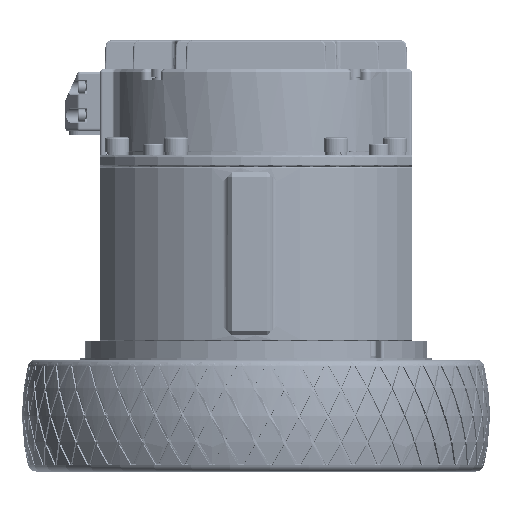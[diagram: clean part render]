
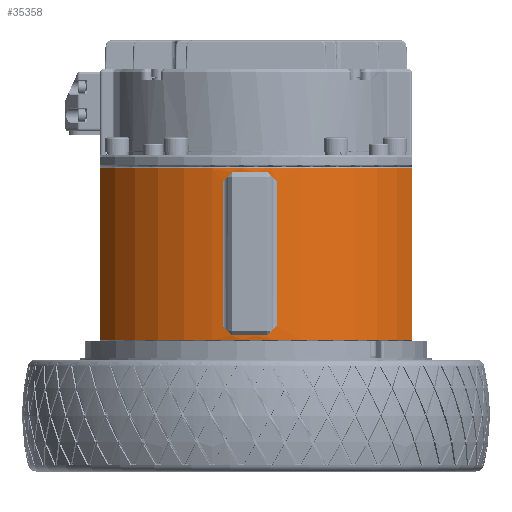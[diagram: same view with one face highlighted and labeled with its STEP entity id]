
A CAD part, left-side view. The second image highlights one B-rep face of the part: STEP entity #35358.
In plain terms, the highlighted cylindrical face has radius 61 mm (diameter 122 mm), a partial arc.
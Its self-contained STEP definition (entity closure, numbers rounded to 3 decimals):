
#661 = VERTEX_POINT ( 'NONE', #97570 ) ;
#1352 = DIRECTION ( 'NONE',  ( 0., 0., 1. ) ) ;
#2329 = CARTESIAN_POINT ( 'NONE',  ( 0., 0., -146.697 ) ) ;
#3193 = LINE ( 'NONE', #183142, #177117 ) ;
#8589 = EDGE_CURVE ( 'NONE', #101421, #129819, #17062, .T. ) ;
#11638 =( BOUNDED_CURVE ( )  B_SPLINE_CURVE ( 3, ( #84684, #162507, #41893, #13699 ),
 .UNSPECIFIED., .F., .T. ) 
 B_SPLINE_CURVE_WITH_KNOTS ( ( 4, 4 ),
 ( 1.451, 1.505 ),
 .UNSPECIFIED. ) 
 CURVE ( )  GEOMETRIC_REPRESENTATION_ITEM ( )  RATIONAL_B_SPLINE_CURVE ( ( 1., 1., 1., 1. ) ) 
 REPRESENTATION_ITEM ( '' )  );
#13699 = CARTESIAN_POINT ( 'NONE',  ( -60.869, -4., -145.197 ) ) ;
#14079 = CARTESIAN_POINT ( 'NONE',  ( -60.084, 10.584, -89.781 ) ) ;
#17062 = LINE ( 'NONE', #77312, #146217 ) ;
#17197 = CARTESIAN_POINT ( 'NONE',  ( -60.696, -6.177, -89.875 ) ) ;
#18137 = ORIENTED_EDGE ( 'NONE', *, *, #132550, .T. ) ;
#20663 = CARTESIAN_POINT ( 'NONE',  ( -26.382, 55., -86.197 ) ) ;
#20941 = ORIENTED_EDGE ( 'NONE', *, *, #128713, .T. ) ;
#21414 = LINE ( 'NONE', #164738, #102593 ) ;
#24119 = CARTESIAN_POINT ( 'NONE',  ( -59.883, 11.619, -90.816 ) ) ;
#24121 =( BOUNDED_CURVE ( )  B_SPLINE_CURVE ( 3, ( #45404, #177780, #17197, #60955 ),
 .UNSPECIFIED., .F., .F. ) 
 B_SPLINE_CURVE_WITH_KNOTS ( ( 4, 4 ),
 ( 1.636, 1.69 ),
 .UNSPECIFIED. ) 
 CURVE ( )  GEOMETRIC_REPRESENTATION_ITEM ( )  RATIONAL_B_SPLINE_CURVE ( ( 1., 1., 1., 1. ) ) 
 REPRESENTATION_ITEM ( '' )  );
#24153 = AXIS2_PLACEMENT_3D ( 'NONE', #57893, #69603, #146485 ) ;
#24742 = CIRCLE ( 'NONE', #121076, 61. ) ;
#26912 = CARTESIAN_POINT ( 'NONE',  ( -60.566, -7.262, -90.959 ) ) ;
#27687 = CARTESIAN_POINT ( 'NONE',  ( -60.258, 9.544, -88.741 ) ) ;
#28872 = EDGE_LOOP ( 'NONE', ( #93689, #183773, #59309, #18137, #102043, #92927, #20941, #66211 ) ) ;
#35358 = ADVANCED_FACE ( 'NONE', ( #156492, #97080 ), #65072, .T. ) ;
#35540 = EDGE_CURVE ( 'NONE', #155682, #60007, #99635, .T. ) ;
#41893 = CARTESIAN_POINT ( 'NONE',  ( -60.797, -5.09, -144.108 ) ) ;
#42042 = CARTESIAN_POINT ( 'NONE',  ( -60.566, -7.262, -147.197 ) ) ;
#43046 = CARTESIAN_POINT ( 'NONE',  ( -60.405, 8.5, -87.697 ) ) ;
#44199 = CARTESIAN_POINT ( 'NONE',  ( -59.883, 11.619, -90.816 ) ) ;
#44463 = EDGE_LOOP ( 'NONE', ( #170736, #48288, #65554, #181579 ) ) ;
#45404 = CARTESIAN_POINT ( 'NONE',  ( -60.869, -4., -87.697 ) ) ;
#46658 = CARTESIAN_POINT ( 'NONE',  ( -26.382, -55., -146.697 ) ) ;
#46993 = DIRECTION ( 'NONE',  ( 0., 0., 1. ) ) ;
#48288 = ORIENTED_EDGE ( 'NONE', *, *, #93535, .T. ) ;
#50032 = DIRECTION ( 'NONE',  ( 0., 0., 1. ) ) ;
#56007 = CARTESIAN_POINT ( 'NONE',  ( -60.405, 8.5, -145.197 ) ) ;
#57347 = VERTEX_POINT ( 'NONE', #127419 ) ;
#57893 = CARTESIAN_POINT ( 'NONE',  ( 0., 0., -86.197 ) ) ;
#59309 = ORIENTED_EDGE ( 'NONE', *, *, #97983, .T. ) ;
#59901 =( BOUNDED_CURVE ( )  B_SPLINE_CURVE ( 3, ( #44199, #14079, #27687, #115207 ),
 .UNSPECIFIED., .F., .T. ) 
 B_SPLINE_CURVE_WITH_KNOTS ( ( 4, 4 ),
 ( 4.521, 4.573 ),
 .UNSPECIFIED. ) 
 CURVE ( )  GEOMETRIC_REPRESENTATION_ITEM ( )  RATIONAL_B_SPLINE_CURVE ( ( 1., 1., 1., 1. ) ) 
 REPRESENTATION_ITEM ( '' )  );
#60007 = VERTEX_POINT ( 'NONE', #81236 ) ;
#60955 = CARTESIAN_POINT ( 'NONE',  ( -60.566, -7.262, -90.959 ) ) ;
#63314 = VERTEX_POINT ( 'NONE', #170262 ) ;
#65072 = CYLINDRICAL_SURFACE ( 'NONE', #100445, 61. ) ;
#65554 = ORIENTED_EDGE ( 'NONE', *, *, #8589, .F. ) ;
#66211 = ORIENTED_EDGE ( 'NONE', *, *, #125169, .F. ) ;
#69603 = DIRECTION ( 'NONE',  ( 0., 0., -1. ) ) ;
#76585 = CARTESIAN_POINT ( 'NONE',  ( 0., 0., -145.197 ) ) ;
#77312 = CARTESIAN_POINT ( 'NONE',  ( -26.382, 55., -156.697 ) ) ;
#77561 = DIRECTION ( 'NONE',  ( -1., 0., 0. ) ) ;
#81236 = CARTESIAN_POINT ( 'NONE',  ( -59.883, 11.619, -142.078 ) ) ;
#84684 = CARTESIAN_POINT ( 'NONE',  ( -60.566, -7.262, -141.935 ) ) ;
#86317 = CARTESIAN_POINT ( 'NONE',  ( -59.883, 11.619, -142.078 ) ) ;
#86764 = DIRECTION ( 'NONE',  ( 0., 0., -1. ) ) ;
#92927 = ORIENTED_EDGE ( 'NONE', *, *, #175924, .T. ) ;
#93535 = EDGE_CURVE ( 'NONE', #57347, #129819, #107995, .T. ) ;
#93689 = ORIENTED_EDGE ( 'NONE', *, *, #35540, .T. ) ;
#94115 = AXIS2_PLACEMENT_3D ( 'NONE', #113851, #50032, #99281 ) ;
#97080 = FACE_BOUND ( 'NONE', #28872, .T. ) ;
#97570 = CARTESIAN_POINT ( 'NONE',  ( -60.869, -4., -145.197 ) ) ;
#97983 = EDGE_CURVE ( 'NONE', #183145, #131493, #59901, .T. ) ;
#99281 = DIRECTION ( 'NONE',  ( -1., 0., 0. ) ) ;
#99635 =( BOUNDED_CURVE ( )  B_SPLINE_CURVE ( 3, ( #157435, #100896, #143814, #86317 ),
 .UNSPECIFIED., .F., .F. ) 
 B_SPLINE_CURVE_WITH_KNOTS ( ( 4, 4 ),
 ( 4.852, 4.904 ),
 .UNSPECIFIED. ) 
 CURVE ( )  GEOMETRIC_REPRESENTATION_ITEM ( )  RATIONAL_B_SPLINE_CURVE ( ( 1., 1., 1., 1. ) ) 
 REPRESENTATION_ITEM ( '' )  );
#100330 = CIRCLE ( 'NONE', #94115, 61. ) ;
#100334 = VERTEX_POINT ( 'NONE', #185851 ) ;
#100445 = AXIS2_PLACEMENT_3D ( 'NONE', #169181, #122445, #108815 ) ;
#100896 = CARTESIAN_POINT ( 'NONE',  ( -60.258, 9.544, -144.153 ) ) ;
#101421 = VERTEX_POINT ( 'NONE', #166496 ) ;
#102043 = ORIENTED_EDGE ( 'NONE', *, *, #187519, .T. ) ;
#102593 = VECTOR ( 'NONE', #46993, 1000. ) ;
#107995 = CIRCLE ( 'NONE', #24153, 61. ) ;
#108815 = DIRECTION ( 'NONE',  ( 1., 0., 0. ) ) ;
#113851 = CARTESIAN_POINT ( 'NONE',  ( 0., 0., -87.697 ) ) ;
#115207 = CARTESIAN_POINT ( 'NONE',  ( -60.405, 8.5, -87.697 ) ) ;
#121076 = AXIS2_PLACEMENT_3D ( 'NONE', #76585, #168079, #77561 ) ;
#122445 = DIRECTION ( 'NONE',  ( 0., 0., 1. ) ) ;
#123146 = CIRCLE ( 'NONE', #138757, 61. ) ;
#125169 = EDGE_CURVE ( 'NONE', #155682, #661, #24742, .T. ) ;
#125767 = EDGE_CURVE ( 'NONE', #177488, #57347, #21414, .T. ) ;
#127419 = CARTESIAN_POINT ( 'NONE',  ( -26.382, -55., -86.197 ) ) ;
#128713 = EDGE_CURVE ( 'NONE', #63314, #661, #11638, .T. ) ;
#129819 = VERTEX_POINT ( 'NONE', #20663 ) ;
#131493 = VERTEX_POINT ( 'NONE', #43046 ) ;
#131503 = LINE ( 'NONE', #42042, #160796 ) ;
#132550 = EDGE_CURVE ( 'NONE', #131493, #100334, #100330, .T. ) ;
#138757 = AXIS2_PLACEMENT_3D ( 'NONE', #2329, #1352, #166702 ) ;
#139318 = DIRECTION ( 'NONE',  ( 0., 0., 1. ) ) ;
#139576 = DIRECTION ( 'NONE',  ( 0., 0., 1. ) ) ;
#143814 = CARTESIAN_POINT ( 'NONE',  ( -60.084, 10.584, -143.113 ) ) ;
#144615 = EDGE_CURVE ( 'NONE', #60007, #183145, #3193, .T. ) ;
#146217 = VECTOR ( 'NONE', #139576, 1000. ) ;
#146485 = DIRECTION ( 'NONE',  ( -1., 0., 0. ) ) ;
#153342 = VERTEX_POINT ( 'NONE', #26912 ) ;
#155682 = VERTEX_POINT ( 'NONE', #56007 ) ;
#156492 = FACE_OUTER_BOUND ( 'NONE', #44463, .T. ) ;
#157435 = CARTESIAN_POINT ( 'NONE',  ( -60.405, 8.5, -145.197 ) ) ;
#160134 = EDGE_CURVE ( 'NONE', #101421, #177488, #123146, .T. ) ;
#160796 = VECTOR ( 'NONE', #86764, 1000. ) ;
#162507 = CARTESIAN_POINT ( 'NONE',  ( -60.696, -6.177, -143.02 ) ) ;
#164738 = CARTESIAN_POINT ( 'NONE',  ( -26.382, -55., -156.697 ) ) ;
#166496 = CARTESIAN_POINT ( 'NONE',  ( -26.382, 55., -146.697 ) ) ;
#166702 = DIRECTION ( 'NONE',  ( -1., 0., 0. ) ) ;
#168079 = DIRECTION ( 'NONE',  ( 0., 0., 1. ) ) ;
#169181 = CARTESIAN_POINT ( 'NONE',  ( 0., 0., -147.197 ) ) ;
#170262 = CARTESIAN_POINT ( 'NONE',  ( -60.566, -7.262, -141.935 ) ) ;
#170736 = ORIENTED_EDGE ( 'NONE', *, *, #125767, .T. ) ;
#175924 = EDGE_CURVE ( 'NONE', #153342, #63314, #131503, .T. ) ;
#177117 = VECTOR ( 'NONE', #139318, 1000. ) ;
#177488 = VERTEX_POINT ( 'NONE', #46658 ) ;
#177780 = CARTESIAN_POINT ( 'NONE',  ( -60.797, -5.09, -88.787 ) ) ;
#181579 = ORIENTED_EDGE ( 'NONE', *, *, #160134, .T. ) ;
#183142 = CARTESIAN_POINT ( 'NONE',  ( -59.883, 11.619, -147.197 ) ) ;
#183145 = VERTEX_POINT ( 'NONE', #24119 ) ;
#183773 = ORIENTED_EDGE ( 'NONE', *, *, #144615, .T. ) ;
#185851 = CARTESIAN_POINT ( 'NONE',  ( -60.869, -4., -87.697 ) ) ;
#187519 = EDGE_CURVE ( 'NONE', #100334, #153342, #24121, .T. ) ;
